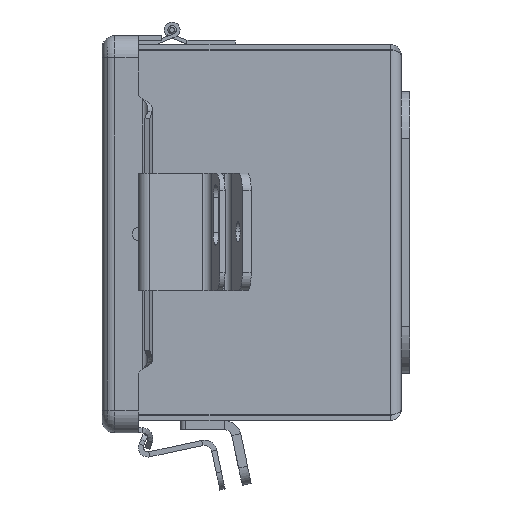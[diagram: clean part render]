
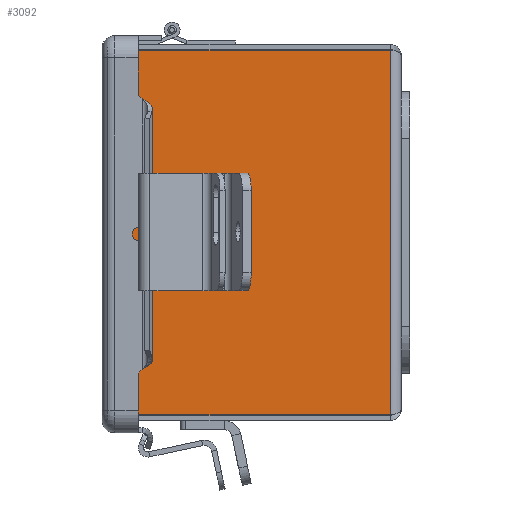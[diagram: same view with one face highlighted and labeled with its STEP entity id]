
A CAD part, left-side view. The second image highlights one B-rep face of the part: STEP entity #3092.
In plain terms, the highlighted planar face has unit normal (-1, 0, 0).
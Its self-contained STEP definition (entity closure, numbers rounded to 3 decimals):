
#160 = CARTESIAN_POINT ( 'NONE',  ( -3., 2.885, 32. ) ) ;
#368 = PLANE ( 'NONE',  #42510 ) ;
#372 = DIRECTION ( 'NONE',  ( 1., 0., 0. ) ) ;
#392 = DIRECTION ( 'NONE',  ( 0., 1., 0. ) ) ;
#418 = LINE ( 'NONE', #25514, #422 ) ;
#422 = VECTOR ( 'NONE', #25516, 39.37 ) ;
#1026 = LINE ( 'NONE', #25551, #1035 ) ;
#1035 = VECTOR ( 'NONE', #25556, 39.37 ) ;
#1051 = LINE ( 'NONE', #25570, #1073 ) ;
#1053 = LINE ( 'NONE', #25566, #1057 ) ;
#1057 = VECTOR ( 'NONE', #25567, 39.37 ) ;
#1073 = VECTOR ( 'NONE', #25573, 39.37 ) ;
#3092 = ADVANCED_FACE ( 'NONE', ( #6886 ), #368, .F. ) ;
#6886 = FACE_OUTER_BOUND ( 'NONE', #18353, .T. ) ;
#9756 = VERTEX_POINT ( 'NONE', #25245 ) ;
#9834 = VERTEX_POINT ( 'NONE', #25323 ) ;
#9838 = VERTEX_POINT ( 'NONE', #25327 ) ;
#9899 = VERTEX_POINT ( 'NONE', #25388 ) ;
#10042 = EDGE_CURVE ( 'NONE', #9834, #9899, #418, .T. ) ;
#10059 = EDGE_CURVE ( 'NONE', #9838, #9756, #1026, .T. ) ;
#10063 = EDGE_CURVE ( 'NONE', #9834, #9756, #1053, .T. ) ;
#10066 = EDGE_CURVE ( 'NONE', #9899, #9838, #1051, .T. ) ;
#18353 = EDGE_LOOP ( 'NONE', ( #37057, #37056, #37055, #37054 ) ) ;
#25245 = CARTESIAN_POINT ( 'NONE',  ( -3., 2.885, -1.938 ) ) ;
#25323 = CARTESIAN_POINT ( 'NONE',  ( -3., 2.885, 1.938 ) ) ;
#25327 = CARTESIAN_POINT ( 'NONE',  ( -3., 0.115, -1.938 ) ) ;
#25388 = CARTESIAN_POINT ( 'NONE',  ( -3., 0.115, 1.938 ) ) ;
#25514 = CARTESIAN_POINT ( 'NONE',  ( -3., 2.885, 1.938 ) ) ;
#25516 = DIRECTION ( 'NONE',  ( 0., -1., 0. ) ) ;
#25551 = CARTESIAN_POINT ( 'NONE',  ( -3., 2.885, -1.938 ) ) ;
#25556 = DIRECTION ( 'NONE',  ( 0., 1., 0. ) ) ;
#25566 = CARTESIAN_POINT ( 'NONE',  ( -3., 2.885, 32. ) ) ;
#25567 = DIRECTION ( 'NONE',  ( 0., 0., -1. ) ) ;
#25570 = CARTESIAN_POINT ( 'NONE',  ( -3., 0.115, 32. ) ) ;
#25573 = DIRECTION ( 'NONE',  ( 0., 0., -1. ) ) ;
#37054 = ORIENTED_EDGE ( 'NONE', *, *, #10063, .T. ) ;
#37055 = ORIENTED_EDGE ( 'NONE', *, *, #10042, .F. ) ;
#37056 = ORIENTED_EDGE ( 'NONE', *, *, #10066, .F. ) ;
#37057 = ORIENTED_EDGE ( 'NONE', *, *, #10059, .F. ) ;
#42510 = AXIS2_PLACEMENT_3D ( 'NONE', #160, #372, #392 ) ;
